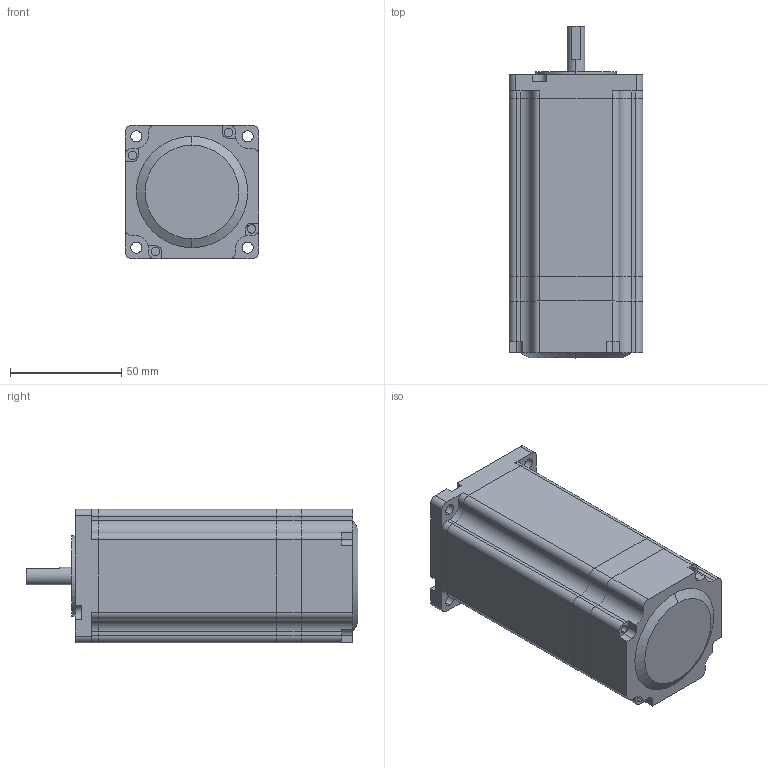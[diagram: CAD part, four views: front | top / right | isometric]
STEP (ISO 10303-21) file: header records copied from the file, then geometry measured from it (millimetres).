
FILE_DESCRIPTION (( 'STEP AP214' ), '1' );
FILE_NAME ('60A4ED（60HSM102D-D0822-001）.STEP', '2020-06-02T02:47:09', ( 'wimxt.com' ), ( 'wimxt.com' ), 'SwSTEP 2.0', 'SolidWorks 2014', '' );
FILE_SCHEMA (( 'AUTOMOTIVE_DESIGN' ));
Length unit declared in the file: millimetre
Products named in the file (5): 60敕遠綴欶; 60A3EC傷裔; 60A3菁釱; 60A3隅赽; 60A4ED（60HSM102D-D0822-001）
Assembly tree (4 placements, depth 2):
  60A4ED（60HSM102D-D0822-001）
    60A3隅赽
    60A3菁釱
    60A3EC傷裔
    60敕遠綴欶
Bounding box: 60 x 149 x 60 mm (x, y, z)
Volume: 172484.1 mm3; surface area: 80120.6 mm2
Topology: 4 solids, 4 shells, 321 faces, 866 edges, 577 vertices
Faces by surface type: plane 162, cylinder 155, torus 2, cone 2
Entity records: 10550 total; most frequent: DIRECTION 1855, CARTESIAN_POINT 1771, ORIENTED_EDGE 1732, EDGE_CURVE 866, AXIS2_PLACEMENT_3D 661, VERTEX_POINT 577, VECTOR 533, LINE 533
